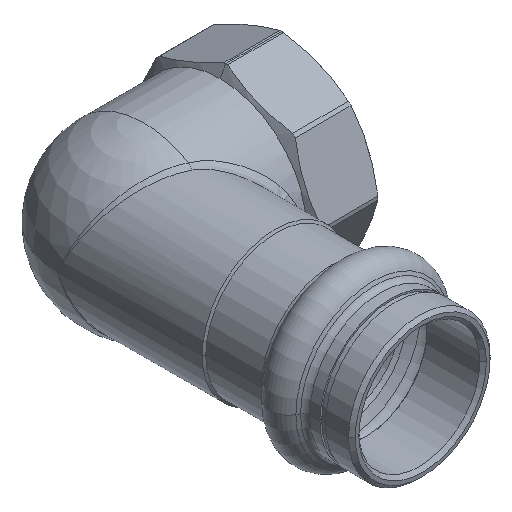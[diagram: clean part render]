
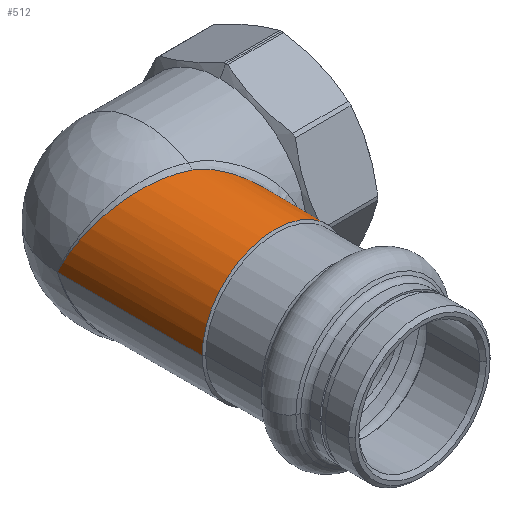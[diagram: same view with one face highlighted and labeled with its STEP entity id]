
A CAD part, isometric view. The second image highlights one B-rep face of the part: STEP entity #512.
In plain terms, the highlighted cylindrical face has radius 11 mm (diameter 22 mm), a partial arc.
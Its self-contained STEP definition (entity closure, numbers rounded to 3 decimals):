
#1 = CARTESIAN_POINT ( 'NONE',  ( 6.343, -10.586, 9.007 ) ) ;
#62 = ORIENTED_EDGE ( 'NONE', *, *, #3074, .T. ) ;
#208 = DIRECTION ( 'NONE',  ( -1., 0., 0. ) ) ;
#245 = CYLINDRICAL_SURFACE ( 'NONE', #1946, 11. ) ;
#270 = CARTESIAN_POINT ( 'NONE',  ( -2.34, -6.4, 10.756 ) ) ;
#274 = CARTESIAN_POINT ( 'NONE',  ( 10.446, -14.435, 3.515 ) ) ;
#278 = CARTESIAN_POINT ( 'NONE',  ( -9.706, -2.499, 5.235 ) ) ;
#284 = CARTESIAN_POINT ( 'NONE',  ( 5.053, -9.571, 9.775 ) ) ;
#296 = EDGE_CURVE ( 'NONE', #2564, #507, #1530, .T. ) ;
#313 = ORIENTED_EDGE ( 'NONE', *, *, #1172, .T. ) ;
#507 = VERTEX_POINT ( 'NONE', #3427 ) ;
#512 = ADVANCED_FACE ( 'NONE', ( #2644 ), #245, .T. ) ;
#567 = B_SPLINE_CURVE_WITH_KNOTS ( 'NONE', 3,
 ( #853, #2483, #1674, #3584, #1950, #270, #2215, #571, #2497, #862, #2779, #1127, #3043, #1407, #3319, #1685, #3596, #1958, #278, #2229, #585, #2506, #873, #2790, #1139, #3054, #1419, #3335, #1696, #1016 ),
 .UNSPECIFIED., .F., .F.,
 ( 4, 2, 2, 2, 2, 2, 2, 2, 2, 2, 2, 2, 2, 2, 4 ),
 ( 0., 0.003, 0.004, 0.005, 0.008, 0.009, 0.01, 0.011, 0.013, 0.015, 0.017, 0.018, 0.019, 0.02, 0.02 ),
 .UNSPECIFIED. ) ;
#571 = CARTESIAN_POINT ( 'NONE',  ( -3.885, -5.807, 10.322 ) ) ;
#577 = CARTESIAN_POINT ( 'NONE',  ( 9.917, -13.905, 4.771 ) ) ;
#585 = CARTESIAN_POINT ( 'NONE',  ( -10.327, -1.793, 3.809 ) ) ;
#590 = CARTESIAN_POINT ( 'NONE',  ( 4.216, -8.986, 10.165 ) ) ;
#739 = DIRECTION ( 'NONE',  ( -1., 0., 0. ) ) ;
#853 = CARTESIAN_POINT ( 'NONE',  ( 1.692, -7.746, 10.869 ) ) ;
#855 = CARTESIAN_POINT ( 'NONE',  ( -11., 24.271, 0. ) ) ;
#862 = CARTESIAN_POINT ( 'NONE',  ( -5.665, -5.024, 9.438 ) ) ;
#868 = CARTESIAN_POINT ( 'NONE',  ( 9.451, -13.444, 5.637 ) ) ;
#873 = CARTESIAN_POINT ( 'NONE',  ( -10.673, -1.256, 2.689 ) ) ;
#878 = CARTESIAN_POINT ( 'NONE',  ( 3.329, -8.449, 10.489 ) ) ;
#907 = VERTEX_POINT ( 'NONE', #2030 ) ;
#1016 = CARTESIAN_POINT ( 'NONE',  ( -11., 0., 0. ) ) ;
#1050 = CARTESIAN_POINT ( 'NONE',  ( 11., 24.271, 0. ) ) ;
#1127 = CARTESIAN_POINT ( 'NONE',  ( -6.651, -4.537, 8.77 ) ) ;
#1131 = CARTESIAN_POINT ( 'NONE',  ( 8.926, -12.933, 6.436 ) ) ;
#1139 = CARTESIAN_POINT ( 'NONE',  ( -10.897, -0.72, 1.549 ) ) ;
#1144 = CARTESIAN_POINT ( 'NONE',  ( 2.377, -7.985, 10.745 ) ) ;
#1172 = EDGE_CURVE ( 'NONE', #907, #3486, #2762, .T. ) ;
#1233 = ORIENTED_EDGE ( 'NONE', *, *, #296, .F. ) ;
#1407 = CARTESIAN_POINT ( 'NONE',  ( -7.549, -4.042, 8.01 ) ) ;
#1411 = CARTESIAN_POINT ( 'NONE',  ( 8.344, -12.378, 7.174 ) ) ;
#1419 = CARTESIAN_POINT ( 'NONE',  ( -10.974, -0.361, 0.778 ) ) ;
#1427 = CARTESIAN_POINT ( 'NONE',  ( 1.692, -7.746, 10.869 ) ) ;
#1530 = LINE ( 'NONE', #855, #3065 ) ;
#1545 = ORIENTED_EDGE ( 'NONE', *, *, #2236, .T. ) ;
#1590 = EDGE_LOOP ( 'NONE', ( #2576, #62, #313, #1545, #1233 ) ) ;
#1668 = CARTESIAN_POINT ( 'NONE',  ( 11., -15., 0.36 ) ) ;
#1674 = CARTESIAN_POINT ( 'NONE',  ( 0.065, -7.238, 11.029 ) ) ;
#1681 = CARTESIAN_POINT ( 'NONE',  ( 10.911, -14.909, 1.441 ) ) ;
#1685 = CARTESIAN_POINT ( 'NONE',  ( -8.362, -3.536, 7.158 ) ) ;
#1690 = CARTESIAN_POINT ( 'NONE',  ( 7.28, -11.396, 8.268 ) ) ;
#1696 = CARTESIAN_POINT ( 'NONE',  ( -11., -0.089, 0.193 ) ) ;
#1739 = CARTESIAN_POINT ( 'NONE',  ( 1.692, -7.746, 10.869 ) ) ;
#1896 = DIRECTION ( 'NONE',  ( 0., 1., 0. ) ) ;
#1946 = AXIS2_PLACEMENT_3D ( 'NONE', #2604, #2046, #739 ) ;
#1949 = LINE ( 'NONE', #1050, #3316 ) ;
#1950 = CARTESIAN_POINT ( 'NONE',  ( -1.543, -6.688, 10.899 ) ) ;
#1954 = CARTESIAN_POINT ( 'NONE',  ( 10.648, -14.641, 2.851 ) ) ;
#1958 = CARTESIAN_POINT ( 'NONE',  ( -9.313, -2.845, 5.906 ) ) ;
#1966 = CARTESIAN_POINT ( 'NONE',  ( 5.848, -10.175, 9.336 ) ) ;
#2030 = CARTESIAN_POINT ( 'NONE',  ( 11., -15., 0. ) ) ;
#2046 = DIRECTION ( 'NONE',  ( 0., 1., 0. ) ) ;
#2215 = CARTESIAN_POINT ( 'NONE',  ( -2.734, -6.253, 10.662 ) ) ;
#2223 = CARTESIAN_POINT ( 'NONE',  ( 10.059, -14.047, 4.464 ) ) ;
#2229 = CARTESIAN_POINT ( 'NONE',  ( -10.185, -1.97, 4.173 ) ) ;
#2234 = CARTESIAN_POINT ( 'NONE',  ( 4.779, -9.371, 9.913 ) ) ;
#2236 = EDGE_CURVE ( 'NONE', #3486, #507, #567, .T. ) ;
#2248 = CARTESIAN_POINT ( 'NONE',  ( -11., -21.798, 0. ) ) ;
#2449 = DIRECTION ( 'NONE',  ( 0., 1., 0. ) ) ;
#2483 = CARTESIAN_POINT ( 'NONE',  ( 0.876, -7.497, 10.996 ) ) ;
#2497 = CARTESIAN_POINT ( 'NONE',  ( -4.618, -5.502, 10.015 ) ) ;
#2503 = CARTESIAN_POINT ( 'NONE',  ( 9.613, -13.604, 5.357 ) ) ;
#2506 = CARTESIAN_POINT ( 'NONE',  ( -10.572, -1.434, 3.065 ) ) ;
#2513 = CARTESIAN_POINT ( 'NONE',  ( 3.927, -8.8, 10.28 ) ) ;
#2564 = VERTEX_POINT ( 'NONE', #2248 ) ;
#2576 = ORIENTED_EDGE ( 'NONE', *, *, #3143, .T. ) ;
#2589 = CIRCLE ( 'NONE', #3326, 11. ) ;
#2604 = CARTESIAN_POINT ( 'NONE',  ( 0., 24.271, 0. ) ) ;
#2644 = FACE_OUTER_BOUND ( 'NONE', #1590, .T. ) ;
#2762 = B_SPLINE_CURVE_WITH_KNOTS ( 'NONE', 3,
 ( #3035, #1668, #3317, #1681, #3589, #1954, #274, #2223, #577, #2503, #868, #2786, #1131, #3049, #1411, #3327, #1690, #1, #1966, #284, #2234, #590, #2513, #878, #2796, #1144, #3059, #1427 ),
 .UNSPECIFIED., .F., .F.,
 ( 4, 2, 2, 2, 2, 2, 2, 2, 2, 2, 2, 2, 2, 4 ),
 ( 0.018, 0.019, 0.02, 0.022, 0.023, 0.024, 0.025, 0.026, 0.028, 0.031, 0.032, 0.033, 0.034, 0.035 ),
 .UNSPECIFIED. ) ;
#2779 = CARTESIAN_POINT ( 'NONE',  ( -6.005, -4.862, 9.225 ) ) ;
#2786 = CARTESIAN_POINT ( 'NONE',  ( 9.107, -13.109, 6.177 ) ) ;
#2790 = CARTESIAN_POINT ( 'NONE',  ( -10.836, -0.898, 1.932 ) ) ;
#2796 = CARTESIAN_POINT ( 'NONE',  ( 3.021, -8.284, 10.582 ) ) ;
#2968 = DIRECTION ( 'NONE',  ( 0., 1., 0. ) ) ;
#3035 = CARTESIAN_POINT ( 'NONE',  ( 11., -15., 0. ) ) ;
#3043 = CARTESIAN_POINT ( 'NONE',  ( -6.96, -4.373, 8.527 ) ) ;
#3049 = CARTESIAN_POINT ( 'NONE',  ( 8.545, -12.568, 6.934 ) ) ;
#3054 = CARTESIAN_POINT ( 'NONE',  ( -10.959, -0.451, 0.972 ) ) ;
#3059 = CARTESIAN_POINT ( 'NONE',  ( 2.04, -7.852, 10.815 ) ) ;
#3065 = VECTOR ( 'NONE', #2449, 1000. ) ;
#3074 = EDGE_CURVE ( 'NONE', #3155, #907, #1949, .T. ) ;
#3143 = EDGE_CURVE ( 'NONE', #2564, #3155, #2589, .T. ) ;
#3155 = VERTEX_POINT ( 'NONE', #3523 ) ;
#3316 = VECTOR ( 'NONE', #2968, 1000. ) ;
#3317 = CARTESIAN_POINT ( 'NONE',  ( 10.982, -14.982, 0.721 ) ) ;
#3319 = CARTESIAN_POINT ( 'NONE',  ( -7.83, -3.875, 7.736 ) ) ;
#3326 = AXIS2_PLACEMENT_3D ( 'NONE', #3533, #1896, #208 ) ;
#3327 = CARTESIAN_POINT ( 'NONE',  ( 7.721, -11.797, 7.859 ) ) ;
#3335 = CARTESIAN_POINT ( 'NONE',  ( -10.995, -0.181, 0.39 ) ) ;
#3427 = CARTESIAN_POINT ( 'NONE',  ( -11., 0., 0. ) ) ;
#3486 = VERTEX_POINT ( 'NONE', #1739 ) ;
#3523 = CARTESIAN_POINT ( 'NONE',  ( 11., -21.798, 0. ) ) ;
#3533 = CARTESIAN_POINT ( 'NONE',  ( 0., -21.798, 0. ) ) ;
#3584 = CARTESIAN_POINT ( 'NONE',  ( -1.142, -6.828, 10.948 ) ) ;
#3589 = CARTESIAN_POINT ( 'NONE',  ( 10.857, -14.854, 1.803 ) ) ;
#3596 = CARTESIAN_POINT ( 'NONE',  ( -8.614, -3.363, 6.852 ) ) ;
